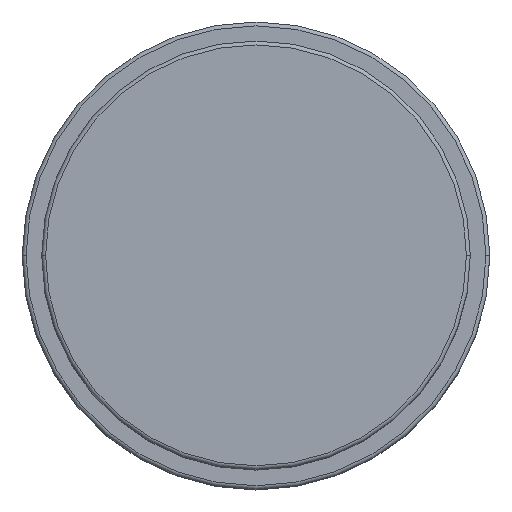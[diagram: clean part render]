
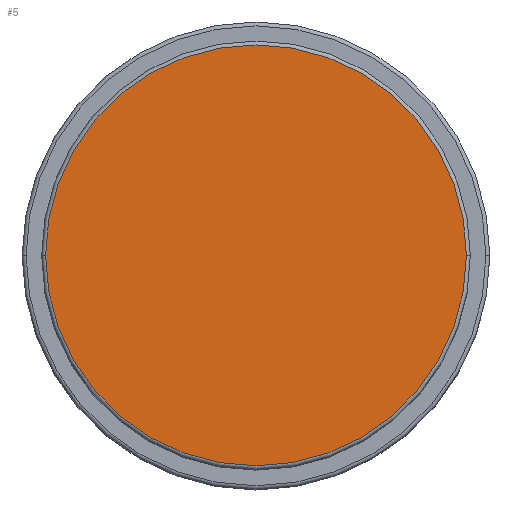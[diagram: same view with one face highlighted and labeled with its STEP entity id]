
A CAD part, top view. The second image highlights one B-rep face of the part: STEP entity #5.
In plain terms, the highlighted planar face has unit normal (0, 0, 1).
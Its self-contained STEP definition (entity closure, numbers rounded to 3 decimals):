
#4 = PLANE ( 'NONE',  #1200 ) ;
#5 = ADVANCED_FACE ( 'NONE', ( #1447 ), #4, .T. ) ;
#83 = CIRCLE ( 'NONE', #1320, 27. ) ;
#91 = CIRCLE ( 'NONE', #1331, 27. ) ;
#205 = ORIENTED_EDGE ( 'NONE', *, *, #560, .T. ) ;
#230 = DIRECTION ( 'NONE',  ( 1., 0., 0. ) ) ;
#321 = CARTESIAN_POINT ( 'NONE',  ( -27., 0., 61. ) ) ;
#387 = DIRECTION ( 'NONE',  ( 0., 0., 1. ) ) ;
#456 = CARTESIAN_POINT ( 'NONE',  ( 27., 0., 61. ) ) ;
#560 = EDGE_CURVE ( 'NONE', #732, #1165, #83, .T. ) ;
#651 = DIRECTION ( 'NONE',  ( 1., 0., 0. ) ) ;
#656 = CARTESIAN_POINT ( 'NONE',  ( 0., 0., 61. ) ) ;
#732 = VERTEX_POINT ( 'NONE', #321 ) ;
#814 = EDGE_CURVE ( 'NONE', #1165, #732, #91, .T. ) ;
#864 = CARTESIAN_POINT ( 'NONE',  ( 0., 0., 61. ) ) ;
#961 = CARTESIAN_POINT ( 'NONE',  ( 0., 0., 61. ) ) ;
#964 = DIRECTION ( 'NONE',  ( 0., 0., 1. ) ) ;
#1035 = DIRECTION ( 'NONE',  ( 0., 0., 1. ) ) ;
#1101 = DIRECTION ( 'NONE',  ( 1., 0., 0. ) ) ;
#1165 = VERTEX_POINT ( 'NONE', #456 ) ;
#1200 = AXIS2_PLACEMENT_3D ( 'NONE', #656, #387, #651 ) ;
#1239 = ORIENTED_EDGE ( 'NONE', *, *, #814, .T. ) ;
#1248 = EDGE_LOOP ( 'NONE', ( #1239, #205 ) ) ;
#1320 = AXIS2_PLACEMENT_3D ( 'NONE', #961, #964, #1101 ) ;
#1331 = AXIS2_PLACEMENT_3D ( 'NONE', #864, #1035, #230 ) ;
#1447 = FACE_OUTER_BOUND ( 'NONE', #1248, .T. ) ;
